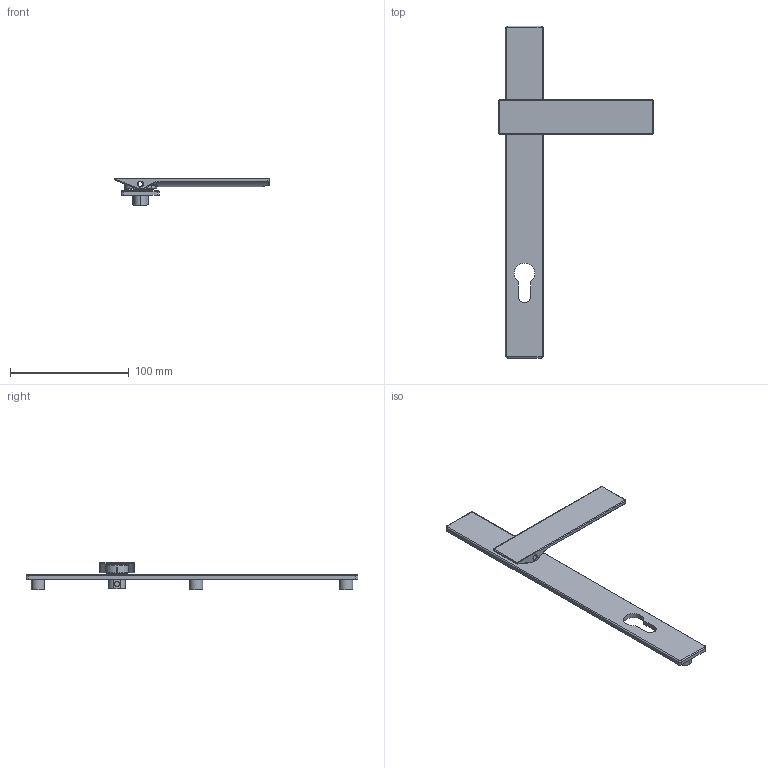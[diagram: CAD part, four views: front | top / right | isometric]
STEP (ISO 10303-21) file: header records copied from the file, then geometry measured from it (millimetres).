
FILE_DESCRIPTION (( 'STEP AP203' ), '1' );
FILE_NAME ('TPL-SS-005-A 23Apr2026.STEP', '2026-04-22T23:11:05', ( '' ), ( '' ), 'SwSTEP 2.0', 'SolidWorks 2023', '' );
FILE_SCHEMA (( 'CONFIG_CONTROL_DESIGN' ));
Length unit declared in the file: millimetre
Products named in the file (5): TPL-SS-005-A 23Apr2026; Copy of LKC-585 Rotator body zinc - simplified^TPGen2 handle keyed external SS - simplified; Copy of Escutcheon plate keyed external 280mm - simplified^TPGen2 handle keyed external SS - simplified; Copy of LKC-584 Pivot body zinc - simplified^TPGen2 handle keyed external SS - simplified; Copy of LKC-506 Swing handle SS - simplified^TPGen2 handle keyed external SS - simplified
Assembly tree (4 placements, depth 2):
  TPL-SS-005-A 23Apr2026
    Copy of Escutcheon plate keyed external 280mm - simplified^TPGen2 handle keyed external SS - simplified
    Copy of LKC-584 Pivot body zinc - simplified^TPGen2 handle keyed external SS - simplified
    Copy of LKC-585 Rotator body zinc - simplified^TPGen2 handle keyed external SS - simplified
    Copy of LKC-506 Swing handle SS - simplified^TPGen2 handle keyed external SS - simplified
Bounding box: 130 x 280 x 23.45 mm (x, y, z)
Volume: 58905.1 mm3; surface area: 33915.3 mm2
Topology: 4 solids, 7 shells, 374 faces, 932 edges, 575 vertices
Faces by surface type: cylinder 177, plane 91, bspline 44, torus 36, cone 24, sphere 2
Entity records: 12687 total; most frequent: CARTESIAN_POINT 3368, DIRECTION 1933, ORIENTED_EDGE 1848, EDGE_CURVE 924, AXIS2_PLACEMENT_3D 792, VERTEX_POINT 575, CIRCLE 455, EDGE_LOOP 403
